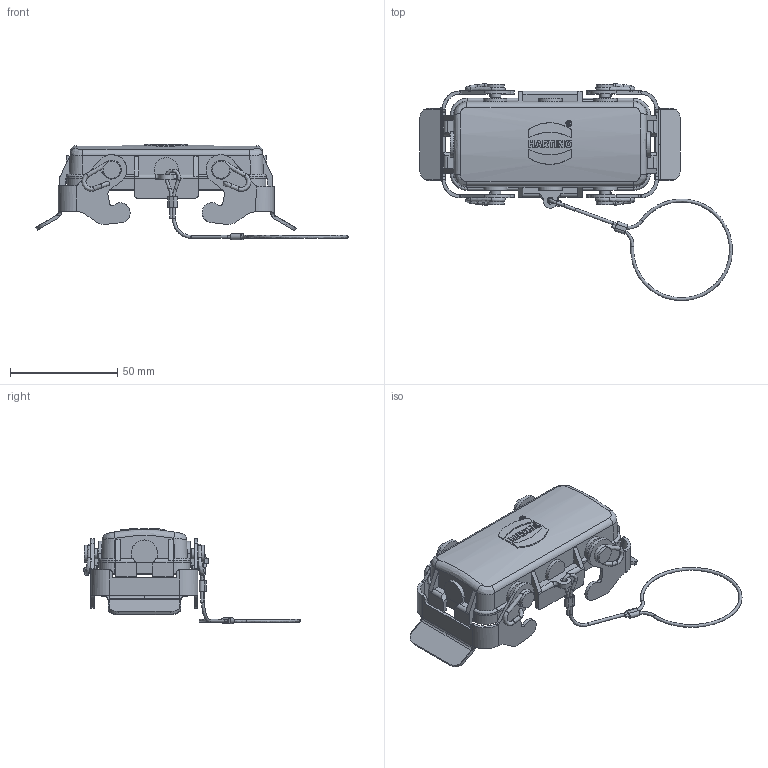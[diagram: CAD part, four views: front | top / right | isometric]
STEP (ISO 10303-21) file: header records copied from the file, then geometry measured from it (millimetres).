
FILE_DESCRIPTION(/* description */ (''),/* implementation_level */ '2;1');
FILE_NAME(/* name */ '100213974ugm000_h.stp',/* time_stamp */ '2023-03-15T08:16:55+01:00',/* author */ (''),/* organization */ (''),/* preprocessor_version */ 'ST-DEVELOPER v16.7',/* originating_system */ 'SIEMENS PLM Software NX 1911',/* authorisation */ '');
FILE_SCHEMA (('AUTOMOTIVE_DESIGN { 1 0 10303 214 3 1 1 1 }'));
Length unit declared in the file: millimetre
Products named in the file (1): 100213974ugm000_h
Bounding box: 145.97 x 101.34 x 44.56 mm (x, y, z)
Volume: 32779.9 mm3; surface area: 31667.6 mm2
Topology: 4 solids, 4 shells, 582 faces, 1497 edges, 964 vertices
Faces by surface type: plane 251, cylinder 151, bspline 146, torus 22, cone 6, extrusion 6
Full cylindrical faces by diameter (mm): 1.6 x4, 2.1 x1, 4 x4, 4.8 x4, 8 x4, 11 x4
Entity records: 27339 total; most frequent: CARTESIAN_POINT 10731, ORIENTED_EDGE 2842, DIRECTION 2140, EDGE_CURVE 1421, VERTEX_POINT 944, AXIS2_PLACEMENT_3D 749, EDGE_LOOP 693, VECTOR 642
